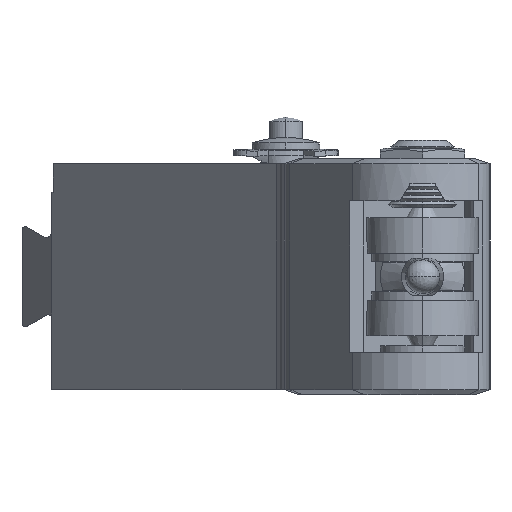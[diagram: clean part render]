
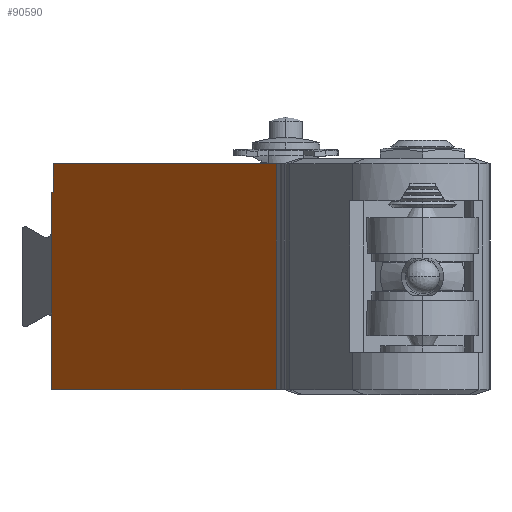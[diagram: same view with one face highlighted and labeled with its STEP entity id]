
A CAD part, left-side view. The second image highlights one B-rep face of the part: STEP entity #90590.
In plain terms, the highlighted planar face has unit normal (-0.643, 0.766, 0).
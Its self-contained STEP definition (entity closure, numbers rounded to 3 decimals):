
#14510=CARTESIAN_POINT('',(11.762,-83.637,6.7));
#14520=VERTEX_POINT('',#14510);
#14550=CARTESIAN_POINT('',(-0.7,-94.094,6.7));
#14560=DIRECTION('',(0.766,0.643,0.));
#14570=VECTOR('',#14560,1.);
#14580=LINE('',#14550,#14570);
#14590=CARTESIAN_POINT('',(27.531,-70.405,6.7));
#14600=VERTEX_POINT('',#14590);
#14610=EDGE_CURVE('',#14520,#14600,#14580,.T.);
#72250=CARTESIAN_POINT('',(27.65,-70.305,
2.627));
#72260=VERTEX_POINT('',#72250);
#81650=CARTESIAN_POINT('',(27.531,-70.405,5.));
#81660=VERTEX_POINT('',#81650);
#81690=CARTESIAN_POINT('',(-1.083,-94.415,5.));
#81700=DIRECTION('',(0.766,0.643,0.));
#81710=VECTOR('',#81700,1.);
#81720=LINE('',#81690,#81710);
#81730=CARTESIAN_POINT('',(27.65,-70.305,5.));
#81740=VERTEX_POINT('',#81730);
#81750=EDGE_CURVE('',#81660,#81740,#81720,.T.);
#88380=CARTESIAN_POINT('',(11.762,-83.637,-6.7));
#88390=VERTEX_POINT('',#88380);
#88420=CARTESIAN_POINT('',(11.762,-83.637,-7.));
#88430=DIRECTION('',(0.,0.,1.));
#88440=VECTOR('',#88430,1.);
#88450=LINE('',#88420,#88440);
#88460=EDGE_CURVE('',#88390,#14520,#88450,.T.);
#88630=CARTESIAN_POINT('',(27.65,-70.305,-7.));
#88640=DIRECTION('',(0.,0.,-1.));
#88650=VECTOR('',#88640,1.);
#88660=LINE('',#88630,#88650);
#88670=CARTESIAN_POINT('',(27.65,-70.305,
-2.453));
#88680=VERTEX_POINT('',#88670);
#88690=CARTESIAN_POINT('',(27.65,-70.305,-6.7));
#88700=VERTEX_POINT('',#88690);
#88710=EDGE_CURVE('',#88680,#88700,#88660,.T.);
#89850=CARTESIAN_POINT('',(27.65,-70.305,-7.));
#89860=DIRECTION('',(0.,0.,1.));
#89870=VECTOR('',#89860,1.);
#89880=LINE('',#89850,#89870);
#89890=EDGE_CURVE('',#88680,#72260,#89880,.T.);
#90230=CARTESIAN_POINT('',(-1.083,-94.415,-6.7));
#90240=DIRECTION('',(0.766,0.643,0.));
#90250=VECTOR('',#90240,1.);
#90260=LINE('',#90230,#90250);
#90270=EDGE_CURVE('',#88390,#88700,#90260,.T.);
#90340=CARTESIAN_POINT('',(32.94,-65.866,-8.4
));
#90350=DIRECTION('',(0.643,-0.766,0.));
#90360=DIRECTION('',(-0.766,-0.643,0.));
#90370=AXIS2_PLACEMENT_3D('',#90340,#90350,#90360);
#90380=PLANE('',#90370);
#90390=CARTESIAN_POINT('',(27.65,-70.305,-7.));
#90400=DIRECTION('',(0.,0.,-1.));
#90410=VECTOR('',#90400,1.);
#90420=LINE('',#90390,#90410);
#90430=EDGE_CURVE('',#81740,#72260,#90420,.T.);
#90440=ORIENTED_EDGE('',*,*,#90430,.T.);
#90450=ORIENTED_EDGE('',*,*,#81750,.T.);
#90460=CARTESIAN_POINT('',(27.531,-70.405,0.));
#90470=DIRECTION('',(0.,0.,-1.));
#90480=VECTOR('',#90470,1.);
#90490=LINE('',#90460,#90480);
#90500=EDGE_CURVE('',#14600,#81660,#90490,.T.);
#90510=ORIENTED_EDGE('',*,*,#90500,.T.);
#90520=ORIENTED_EDGE('',*,*,#14610,.T.);
#90530=ORIENTED_EDGE('',*,*,#88460,.T.);
#90540=ORIENTED_EDGE('',*,*,#90270,.F.);
#90550=ORIENTED_EDGE('',*,*,#88710,.T.);
#90560=ORIENTED_EDGE('',*,*,#89890,.F.);
#90570=EDGE_LOOP('',(#90560,#90550,#90540,#90530,#90520,#90510,#90450,
#90440));
#90580=FACE_OUTER_BOUND('',#90570,.T.);
#90590=ADVANCED_FACE('',(#90580),#90380,.F.);
